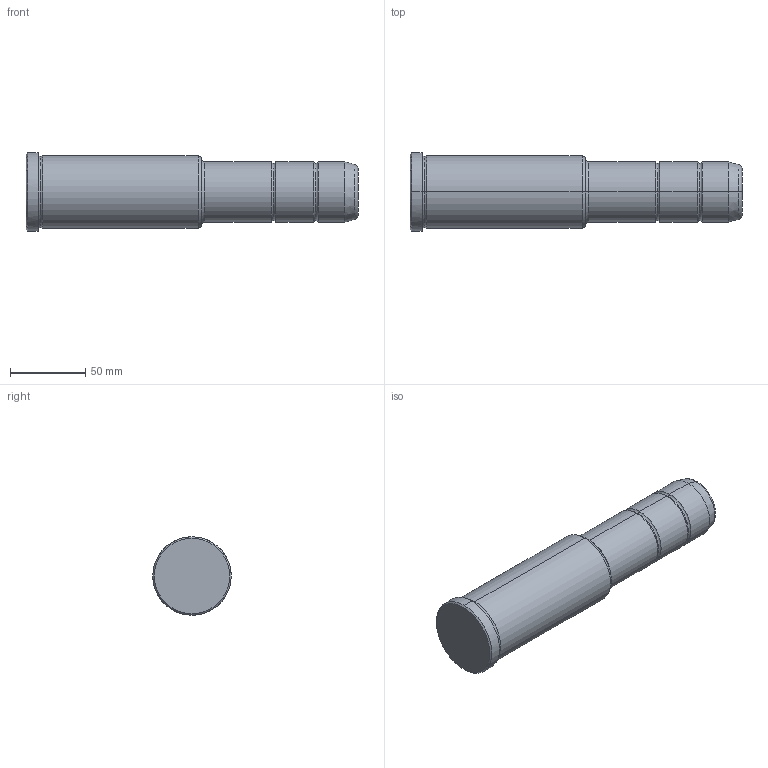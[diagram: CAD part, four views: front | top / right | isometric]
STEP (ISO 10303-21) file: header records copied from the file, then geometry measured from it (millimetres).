
FILE_DESCRIPTION(('CATIA V5 STEP Exchange'),'2;1');
FILE_NAME('C:\Users\Utente\Desktop\IO LAVORO\3D X SITO CF\X SITO\PLASTICA\351\351-40X116X220.stp','2021-10-07T13:19:08+00:00',('none'),('none'),'CATIA Version 5 Release 20 GA (IN-10)','CATIA V5 STEP AP203','none');
FILE_SCHEMA(('CONFIG_CONTROL_DESIGN'));
Length unit declared in the file: millimetre
Products named in the file (1): 351-40X116X220
Bounding box: 220 x 52 x 52 mm (x, y, z)
Volume: 340928.3 mm3; surface area: 34357.3 mm2
Topology: 1 solids, 1 shells, 36 faces, 102 edges, 70 vertices
Faces by surface type: torus 16, cylinder 10, cone 6, plane 4
Entity records: 1292 total; most frequent: CARTESIAN_POINT 321, ORIENTED_EDGE 204, DIRECTION 166, AXIS2_PLACEMENT_3D 115, EDGE_CURVE 102, CIRCLE 78, VERTEX_POINT 70, EDGE_LOOP 38
